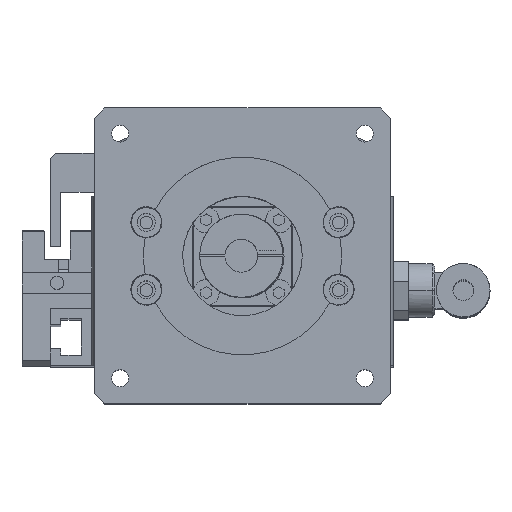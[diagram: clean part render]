
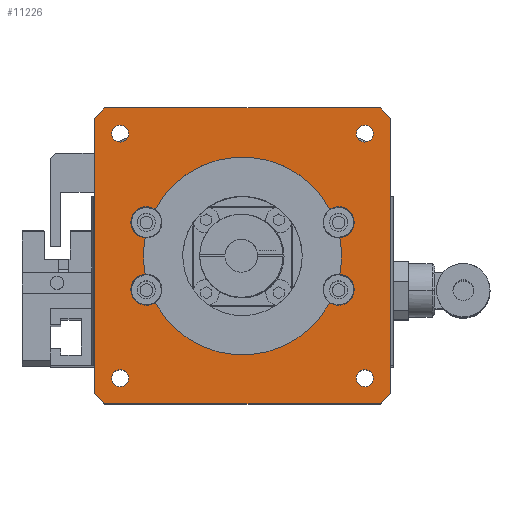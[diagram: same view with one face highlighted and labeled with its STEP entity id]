
A CAD part, top view. The second image highlights one B-rep face of the part: STEP entity #11226.
In plain terms, the highlighted planar face has unit normal (0, 0, 1).
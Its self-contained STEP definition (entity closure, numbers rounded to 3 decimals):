
#11011=CARTESIAN_POINT('',(-4.5,-11.,8.0));
#11012=VERTEX_POINT('',#11011);
#11013=CARTESIAN_POINT('',(-6.5,-9.,8.0));
#11014=VERTEX_POINT('',#11013);
#11015=CARTESIAN_POINT('',(-4.5,-11.,8.0));
#11016=DIRECTION('',(-0.707,0.707,0.0));
#11017=VECTOR('',#11016,2.828);
#11018=LINE('',#11015,#11017);
#11019=EDGE_CURVE('',#11012,#11014,#11018,.T.);
#11046=CARTESIAN_POINT('',(22.,17.5,8.0));
#11047=DIRECTION('',(0.0,0.0,1.0));
#11048=DIRECTION('',(1.0,0.0,0.0));
#11049=AXIS2_PLACEMENT_3D('',#11046,#11047,#11048);
#11050=PLANE('',#11049);
#11051=ORIENTED_EDGE('',*,*,#11019,.F.);
#11052=CARTESIAN_POINT('',(48.5,-11.,8.0));
#11053=VERTEX_POINT('',#11052);
#11054=CARTESIAN_POINT('',(48.5,-11.,8.0));
#11055=DIRECTION('',(-1.0,0.0,0.0));
#11056=VECTOR('',#11055,53.);
#11057=LINE('',#11054,#11056);
#11058=EDGE_CURVE('',#11053,#11012,#11057,.T.);
#11059=ORIENTED_EDGE('',*,*,#11058,.F.);
#11060=CARTESIAN_POINT('',(50.5,-9.,8.0));
#11061=VERTEX_POINT('',#11060);
#11062=CARTESIAN_POINT('',(50.5,-9.,8.0));
#11063=DIRECTION('',(-0.707,-0.707,0.0));
#11064=VECTOR('',#11063,2.828);
#11065=LINE('',#11062,#11064);
#11066=EDGE_CURVE('',#11061,#11053,#11065,.T.);
#11067=ORIENTED_EDGE('',*,*,#11066,.F.);
#11068=CARTESIAN_POINT('',(50.5,44.0,8.0));
#11069=VERTEX_POINT('',#11068);
#11070=CARTESIAN_POINT('',(50.5,44.0,8.0));
#11071=DIRECTION('',(0.0,-1.0,0.0));
#11072=VECTOR('',#11071,53.0);
#11073=LINE('',#11070,#11072);
#11074=EDGE_CURVE('',#11069,#11061,#11073,.T.);
#11075=ORIENTED_EDGE('',*,*,#11074,.F.);
#11076=CARTESIAN_POINT('',(48.5,46.,8.0));
#11077=VERTEX_POINT('',#11076);
#11078=CARTESIAN_POINT('',(48.5,46.,8.0));
#11079=DIRECTION('',(0.707,-0.707,0.0));
#11080=VECTOR('',#11079,2.828);
#11081=LINE('',#11078,#11080);
#11082=EDGE_CURVE('',#11077,#11069,#11081,.T.);
#11083=ORIENTED_EDGE('',*,*,#11082,.F.);
#11084=CARTESIAN_POINT('',(-4.5,46.,8.0));
#11085=VERTEX_POINT('',#11084);
#11086=CARTESIAN_POINT('',(-4.5,46.,8.0));
#11087=DIRECTION('',(1.0,0.0,0.0));
#11088=VECTOR('',#11087,53.);
#11089=LINE('',#11086,#11088);
#11090=EDGE_CURVE('',#11085,#11077,#11089,.T.);
#11091=ORIENTED_EDGE('',*,*,#11090,.F.);
#11092=CARTESIAN_POINT('',(-6.5,44.0,8.0));
#11093=VERTEX_POINT('',#11092);
#11094=CARTESIAN_POINT('',(-6.5,44.0,8.0));
#11095=DIRECTION('',(0.707,0.707,0.0));
#11096=VECTOR('',#11095,2.828);
#11097=LINE('',#11094,#11096);
#11098=EDGE_CURVE('',#11093,#11085,#11097,.T.);
#11099=ORIENTED_EDGE('',*,*,#11098,.F.);
#11100=CARTESIAN_POINT('',(-6.5,-9.,8.0));
#11101=DIRECTION('',(0.0,1.0,0.0));
#11102=VECTOR('',#11101,53.0);
#11103=LINE('',#11100,#11102);
#11104=EDGE_CURVE('',#11014,#11093,#11103,.T.);
#11105=ORIENTED_EDGE('',*,*,#11104,.F.);
#11106=EDGE_LOOP('',(#11051,#11059,#11067,#11075,#11083,#11091,#11099,#11105));
#11107=FACE_OUTER_BOUND('',#11106,.T.);
#11108=CARTESIAN_POINT('',(0.071,-6.05,8.0));
#11109=VERTEX_POINT('',#11108);
#11110=CARTESIAN_POINT('',(-1.55,-6.05,8.));
#11111=DIRECTION('',(0.0,0.0,-1.0));
#11112=DIRECTION('',(1.0,0.0,0.0));
#11113=AXIS2_PLACEMENT_3D('',#11110,#11111,#11112);
#11114=CIRCLE('',#11113,1.621);
#11115=EDGE_CURVE('',#11109,#11109,#11114,.T.);
#11116=ORIENTED_EDGE('',*,*,#11115,.T.);
#11117=EDGE_LOOP('',(#11116));
#11118=FACE_BOUND('',#11117,.T.);
#11119=CARTESIAN_POINT('',(47.171,41.05,8.0));
#11120=VERTEX_POINT('',#11119);
#11121=CARTESIAN_POINT('',(45.55,41.05,8.));
#11122=DIRECTION('',(0.0,0.0,-1.0));
#11123=DIRECTION('',(1.0,0.0,0.0));
#11124=AXIS2_PLACEMENT_3D('',#11121,#11122,#11123);
#11125=CIRCLE('',#11124,1.621);
#11126=EDGE_CURVE('',#11120,#11120,#11125,.T.);
#11127=ORIENTED_EDGE('',*,*,#11126,.T.);
#11128=EDGE_LOOP('',(#11127));
#11129=FACE_BOUND('',#11128,.T.);
#11130=CARTESIAN_POINT('',(47.171,-6.05,8.0));
#11131=VERTEX_POINT('',#11130);
#11132=CARTESIAN_POINT('',(45.55,-6.05,8.));
#11133=DIRECTION('',(0.0,0.0,-1.0));
#11134=DIRECTION('',(1.0,0.0,0.0));
#11135=AXIS2_PLACEMENT_3D('',#11132,#11133,#11134);
#11136=CIRCLE('',#11135,1.621);
#11137=EDGE_CURVE('',#11131,#11131,#11136,.T.);
#11138=ORIENTED_EDGE('',*,*,#11137,.T.);
#11139=EDGE_LOOP('',(#11138));
#11140=FACE_BOUND('',#11139,.T.);
#11141=CARTESIAN_POINT('',(0.071,41.05,8.0));
#11142=VERTEX_POINT('',#11141);
#11143=CARTESIAN_POINT('',(-1.55,41.05,8.));
#11144=DIRECTION('',(0.0,0.0,-1.0));
#11145=DIRECTION('',(1.0,0.0,0.0));
#11146=AXIS2_PLACEMENT_3D('',#11143,#11144,#11145);
#11147=CIRCLE('',#11146,1.621);
#11148=EDGE_CURVE('',#11142,#11142,#11147,.T.);
#11149=ORIENTED_EDGE('',*,*,#11148,.T.);
#11150=EDGE_LOOP('',(#11149));
#11151=FACE_BOUND('',#11150,.T.);
#11152=CARTESIAN_POINT('',(38.804,26.474,8.));
#11153=VERTEX_POINT('',#11152);
#11154=CARTESIAN_POINT('',(40.724,21.008,8.));
#11155=VERTEX_POINT('',#11154);
#11156=CARTESIAN_POINT('',(40.5,24.,8.0));
#11157=DIRECTION('',(0.0,0.0,-1.0));
#11158=DIRECTION('',(1.0,0.0,0.0));
#11159=AXIS2_PLACEMENT_3D('',#11156,#11157,#11158);
#11160=CIRCLE('',#11159,3.);
#11161=EDGE_CURVE('',#11153,#11155,#11160,.T.);
#11162=ORIENTED_EDGE('',*,*,#11161,.T.);
#11163=CARTESIAN_POINT('',(40.724,13.992,8.));
#11164=VERTEX_POINT('',#11163);
#11165=CARTESIAN_POINT('',(22.0,17.5,8.0));
#11166=DIRECTION('',(0.0,0.0,-1.0));
#11167=DIRECTION('',(1.0,0.0,0.0));
#11168=AXIS2_PLACEMENT_3D('',#11165,#11166,#11167);
#11169=CIRCLE('',#11168,19.05);
#11170=EDGE_CURVE('',#11155,#11164,#11169,.T.);
#11171=ORIENTED_EDGE('',*,*,#11170,.T.);
#11172=CARTESIAN_POINT('',(38.804,8.526,8.));
#11173=VERTEX_POINT('',#11172);
#11174=CARTESIAN_POINT('',(40.5,11.,8.0));
#11175=DIRECTION('',(0.0,0.0,-1.0));
#11176=DIRECTION('',(1.0,0.0,0.0));
#11177=AXIS2_PLACEMENT_3D('',#11174,#11175,#11176);
#11178=CIRCLE('',#11177,3.);
#11179=EDGE_CURVE('',#11164,#11173,#11178,.T.);
#11180=ORIENTED_EDGE('',*,*,#11179,.T.);
#11181=CARTESIAN_POINT('',(5.196,8.526,8.0));
#11182=VERTEX_POINT('',#11181);
#11183=CARTESIAN_POINT('',(22.0,17.5,8.0));
#11184=DIRECTION('',(0.0,0.0,-1.0));
#11185=DIRECTION('',(1.0,0.0,0.0));
#11186=AXIS2_PLACEMENT_3D('',#11183,#11184,#11185);
#11187=CIRCLE('',#11186,19.05);
#11188=EDGE_CURVE('',#11173,#11182,#11187,.T.);
#11189=ORIENTED_EDGE('',*,*,#11188,.T.);
#11190=CARTESIAN_POINT('',(3.276,13.992,8.0));
#11191=VERTEX_POINT('',#11190);
#11192=CARTESIAN_POINT('',(3.5,11.,8.0));
#11193=DIRECTION('',(0.0,0.0,-1.0));
#11194=DIRECTION('',(1.0,0.0,0.0));
#11195=AXIS2_PLACEMENT_3D('',#11192,#11193,#11194);
#11196=CIRCLE('',#11195,3.);
#11197=EDGE_CURVE('',#11182,#11191,#11196,.T.);
#11198=ORIENTED_EDGE('',*,*,#11197,.T.);
#11199=CARTESIAN_POINT('',(3.276,21.008,8.));
#11200=VERTEX_POINT('',#11199);
#11201=CARTESIAN_POINT('',(22.0,17.5,8.0));
#11202=DIRECTION('',(0.0,0.0,-1.0));
#11203=DIRECTION('',(1.0,0.0,0.0));
#11204=AXIS2_PLACEMENT_3D('',#11201,#11202,#11203);
#11205=CIRCLE('',#11204,19.05);
#11206=EDGE_CURVE('',#11191,#11200,#11205,.T.);
#11207=ORIENTED_EDGE('',*,*,#11206,.T.);
#11208=CARTESIAN_POINT('',(5.196,26.474,8.));
#11209=VERTEX_POINT('',#11208);
#11210=CARTESIAN_POINT('',(3.5,24.,8.0));
#11211=DIRECTION('',(0.0,0.0,-1.0));
#11212=DIRECTION('',(1.0,0.0,0.0));
#11213=AXIS2_PLACEMENT_3D('',#11210,#11211,#11212);
#11214=CIRCLE('',#11213,3.);
#11215=EDGE_CURVE('',#11200,#11209,#11214,.T.);
#11216=ORIENTED_EDGE('',*,*,#11215,.T.);
#11217=CARTESIAN_POINT('',(22.0,17.5,8.0));
#11218=DIRECTION('',(0.0,0.0,-1.0));
#11219=DIRECTION('',(1.0,0.0,0.0));
#11220=AXIS2_PLACEMENT_3D('',#11217,#11218,#11219);
#11221=CIRCLE('',#11220,19.05);
#11222=EDGE_CURVE('',#11209,#11153,#11221,.T.);
#11223=ORIENTED_EDGE('',*,*,#11222,.T.);
#11224=EDGE_LOOP('',(#11162,#11171,#11180,#11189,#11198,#11207,#11216,#11223));
#11225=FACE_BOUND('',#11224,.T.);
#11226=ADVANCED_FACE('',(#11107,#11118,#11129,#11140,#11151,#11225),#11050,.T.);
